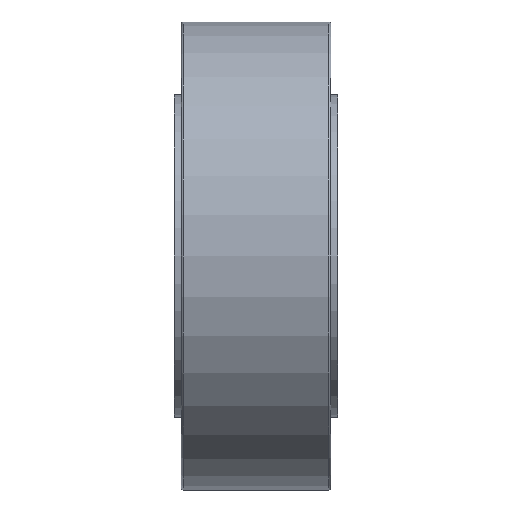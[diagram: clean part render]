
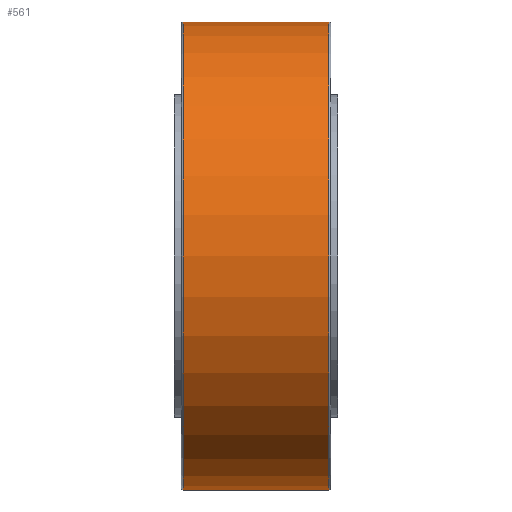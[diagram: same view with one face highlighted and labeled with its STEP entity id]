
A CAD part, front view. The second image highlights one B-rep face of the part: STEP entity #561.
In plain terms, the highlighted cylindrical face has radius 100 mm (diameter 200 mm), a partial arc.
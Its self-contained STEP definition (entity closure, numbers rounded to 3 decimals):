
#169 = VERTEX_POINT ( 'NONE', #1460 ) ;
#173 = VERTEX_POINT ( 'NONE', #1505 ) ;
#174 = VERTEX_POINT ( 'NONE', #1509 ) ;
#185 = VERTEX_POINT ( 'NONE', #1534 ) ;
#482 = EDGE_CURVE ( 'NONE', #174, #173, #2090, .T. ) ;
#502 = EDGE_CURVE ( 'NONE', #185, #169, #2132, .T. ) ;
#532 = EDGE_LOOP ( 'NONE', ( #576, #564, #560, #609 ) ) ;
#556 = EDGE_CURVE ( 'NONE', #174, #185, #2221, .T. ) ;
#560 = ORIENTED_EDGE ( 'NONE', *, *, #502, .T. ) ;
#561 = ADVANCED_FACE ( 'NONE', ( #2196 ), #2174, .T. ) ;
#562 = EDGE_CURVE ( 'NONE', #169, #173, #2214, .T. ) ;
#564 = ORIENTED_EDGE ( 'NONE', *, *, #556, .T. ) ;
#576 = ORIENTED_EDGE ( 'NONE', *, *, #482, .F. ) ;
#609 = ORIENTED_EDGE ( 'NONE', *, *, #562, .T. ) ;
#1460 = CARTESIAN_POINT ( 'NONE',  ( -31., 0., 100. ) ) ;
#1505 = CARTESIAN_POINT ( 'NONE',  ( -31., 0., -100. ) ) ;
#1509 = CARTESIAN_POINT ( 'NONE',  ( 31., 0., -100. ) ) ;
#1534 = CARTESIAN_POINT ( 'NONE',  ( 31., 0., 100. ) ) ;
#2085 = DIRECTION ( 'NONE',  ( -1., 0., 0. ) ) ;
#2086 = VECTOR ( 'NONE', #2085, 1000. ) ;
#2087 = CARTESIAN_POINT ( 'NONE',  ( -41.122, 0., -100. ) ) ;
#2090 = LINE ( 'NONE', #2087, #2086 ) ;
#2129 = DIRECTION ( 'NONE',  ( -1., 0., 0. ) ) ;
#2130 = VECTOR ( 'NONE', #2129, 1000. ) ;
#2131 = CARTESIAN_POINT ( 'NONE',  ( -41.122, 0., 100. ) ) ;
#2132 = LINE ( 'NONE', #2131, #2130 ) ;
#2171 = AXIS2_PLACEMENT_3D ( 'NONE', #2213, #2212, #2211 ) ;
#2174 = CYLINDRICAL_SURFACE ( 'NONE', #2176, 100. ) ;
#2176 = AXIS2_PLACEMENT_3D ( 'NONE', #2222, #2216, #2215 ) ;
#2196 = FACE_OUTER_BOUND ( 'NONE', #532, .T. ) ;
#2211 = DIRECTION ( 'NONE',  ( 0., 0., -1. ) ) ;
#2212 = DIRECTION ( 'NONE',  ( 1., 0., 0. ) ) ;
#2213 = CARTESIAN_POINT ( 'NONE',  ( -31., 0., 0. ) ) ;
#2214 = CIRCLE ( 'NONE', #2171, 100. ) ;
#2215 = DIRECTION ( 'NONE',  ( 0., 0., 1. ) ) ;
#2216 = DIRECTION ( 'NONE',  ( -1., 0., 0. ) ) ;
#2217 = DIRECTION ( 'NONE',  ( 0., 0., 1. ) ) ;
#2218 = DIRECTION ( 'NONE',  ( -1., 0., 0. ) ) ;
#2219 = CARTESIAN_POINT ( 'NONE',  ( 31., 0., 0. ) ) ;
#2220 = AXIS2_PLACEMENT_3D ( 'NONE', #2219, #2218, #2217 ) ;
#2221 = CIRCLE ( 'NONE', #2220, 100. ) ;
#2222 = CARTESIAN_POINT ( 'NONE',  ( -41.122, 0., 0. ) ) ;
